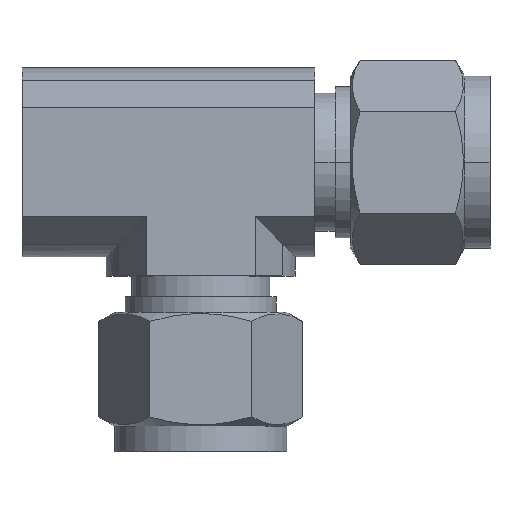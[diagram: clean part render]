
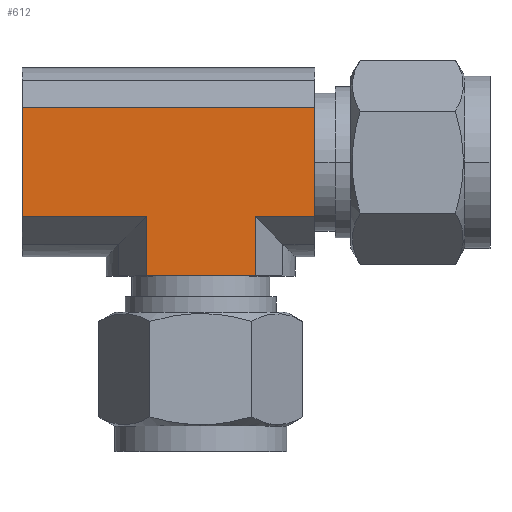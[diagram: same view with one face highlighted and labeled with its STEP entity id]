
A CAD part, top view. The second image highlights one B-rep face of the part: STEP entity #612.
In plain terms, the highlighted planar face has unit normal (0, 0, 1).
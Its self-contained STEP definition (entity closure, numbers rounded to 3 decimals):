
#210 = VERTEX_POINT ( 'NONE', #1369 ) ;
#212 = EDGE_CURVE ( 'NONE', #210, #213, #1368, .T. ) ;
#213 = VERTEX_POINT ( 'NONE', #1364 ) ;
#434 = EDGE_CURVE ( 'NONE', #663, #435, #1980, .T. ) ;
#435 = VERTEX_POINT ( 'NONE', #1976 ) ;
#561 = VERTEX_POINT ( 'NONE', #2139 ) ;
#589 = EDGE_CURVE ( 'NONE', #435, #561, #2200, .T. ) ;
#610 = EDGE_CURVE ( 'NONE', #663, #632, #2313, .T. ) ;
#612 = ADVANCED_FACE ( 'NONE', ( #2309 ), #2307, .F. ) ;
#613 = EDGE_LOOP ( 'NONE', ( #614, #615, #621, #622, #666, #667, #668, #669 ) ) ;
#614 = ORIENTED_EDGE ( 'NONE', *, *, #699, .F. ) ;
#615 = ORIENTED_EDGE ( 'NONE', *, *, #616, .F. ) ;
#616 = EDGE_CURVE ( 'NONE', #213, #626, #2308, .T. ) ;
#620 = VERTEX_POINT ( 'NONE', #2294 ) ;
#621 = ORIENTED_EDGE ( 'NONE', *, *, #212, .F. ) ;
#622 = ORIENTED_EDGE ( 'NONE', *, *, #665, .T. ) ;
#626 = VERTEX_POINT ( 'NONE', #2228 ) ;
#632 = VERTEX_POINT ( 'NONE', #2218 ) ;
#663 = VERTEX_POINT ( 'NONE', #2111 ) ;
#665 = EDGE_CURVE ( 'NONE', #210, #561, #2110, .T. ) ;
#666 = ORIENTED_EDGE ( 'NONE', *, *, #589, .F. ) ;
#667 = ORIENTED_EDGE ( 'NONE', *, *, #434, .F. ) ;
#668 = ORIENTED_EDGE ( 'NONE', *, *, #610, .T. ) ;
#669 = ORIENTED_EDGE ( 'NONE', *, *, #670, .F. ) ;
#670 = EDGE_CURVE ( 'NONE', #620, #632, #2097, .T. ) ;
#699 = EDGE_CURVE ( 'NONE', #626, #620, #2471, .T. ) ;
#1364 = CARTESIAN_POINT ( 'NONE',  ( -6.87, -14.32, 11.9 ) ) ;
#1365 = DIRECTION ( 'NONE',  ( -1., 0., 0. ) ) ;
#1366 = VECTOR ( 'NONE', #1365, 1000. ) ;
#1367 = CARTESIAN_POINT ( 'NONE',  ( 6.87, -14.32, 11.9 ) ) ;
#1368 = LINE ( 'NONE', #1367, #1366 ) ;
#1369 = CARTESIAN_POINT ( 'NONE',  ( 6.87, -14.32, 11.9 ) ) ;
#1976 = CARTESIAN_POINT ( 'NONE',  ( 14.32, -6.87, 11.9 ) ) ;
#1977 = DIRECTION ( 'NONE',  ( 0., -1., 0. ) ) ;
#1978 = VECTOR ( 'NONE', #1977, 1000. ) ;
#1979 = CARTESIAN_POINT ( 'NONE',  ( 14.32, 6.87, 11.9 ) ) ;
#1980 = LINE ( 'NONE', #1979, #1978 ) ;
#2094 = DIRECTION ( 'NONE',  ( 0., 1., 0. ) ) ;
#2095 = VECTOR ( 'NONE', #2094, 1000. ) ;
#2096 = CARTESIAN_POINT ( 'NONE',  ( -22.5, -6.87, 11.9 ) ) ;
#2097 = LINE ( 'NONE', #2096, #2095 ) ;
#2098 = DIRECTION ( 'NONE',  ( 0., 1., 0. ) ) ;
#2099 = VECTOR ( 'NONE', #2098, 1000. ) ;
#2100 = CARTESIAN_POINT ( 'NONE',  ( 6.87, -14.32, 11.9 ) ) ;
#2110 = LINE ( 'NONE', #2100, #2099 ) ;
#2111 = CARTESIAN_POINT ( 'NONE',  ( 14.32, 6.87, 11.9 ) ) ;
#2139 = CARTESIAN_POINT ( 'NONE',  ( 6.87, -6.87, 11.9 ) ) ;
#2197 = DIRECTION ( 'NONE',  ( -1., 0., 0. ) ) ;
#2198 = VECTOR ( 'NONE', #2197, 1000. ) ;
#2199 = CARTESIAN_POINT ( 'NONE',  ( 14.32, -6.87, 11.9 ) ) ;
#2200 = LINE ( 'NONE', #2199, #2198 ) ;
#2218 = CARTESIAN_POINT ( 'NONE',  ( -22.5, 6.87, 11.9 ) ) ;
#2228 = CARTESIAN_POINT ( 'NONE',  ( -6.87, -6.87, 11.9 ) ) ;
#2294 = CARTESIAN_POINT ( 'NONE',  ( -22.5, -6.87, 11.9 ) ) ;
#2300 = DIRECTION ( 'NONE',  ( 0., 1., 0. ) ) ;
#2301 = VECTOR ( 'NONE', #2300, 1000. ) ;
#2302 = CARTESIAN_POINT ( 'NONE',  ( -6.87, -14.32, 11.9 ) ) ;
#2303 = DIRECTION ( 'NONE',  ( 0., 1., 0. ) ) ;
#2304 = DIRECTION ( 'NONE',  ( 0., 0., -1. ) ) ;
#2305 = CARTESIAN_POINT ( 'NONE',  ( 14.32, 6.87, 11.9 ) ) ;
#2306 = AXIS2_PLACEMENT_3D ( 'NONE', #2305, #2304, #2303 ) ;
#2307 = PLANE ( 'NONE',  #2306 ) ;
#2308 = LINE ( 'NONE', #2302, #2301 ) ;
#2309 = FACE_OUTER_BOUND ( 'NONE', #613, .T. ) ;
#2310 = DIRECTION ( 'NONE',  ( -1., 0., 0. ) ) ;
#2311 = VECTOR ( 'NONE', #2310, 1000. ) ;
#2312 = CARTESIAN_POINT ( 'NONE',  ( 14.32, 6.87, 11.9 ) ) ;
#2313 = LINE ( 'NONE', #2312, #2311 ) ;
#2468 = DIRECTION ( 'NONE',  ( -1., 0., 0. ) ) ;
#2469 = VECTOR ( 'NONE', #2468, 1000. ) ;
#2470 = CARTESIAN_POINT ( 'NONE',  ( 14.32, -6.87, 11.9 ) ) ;
#2471 = LINE ( 'NONE', #2470, #2469 ) ;
